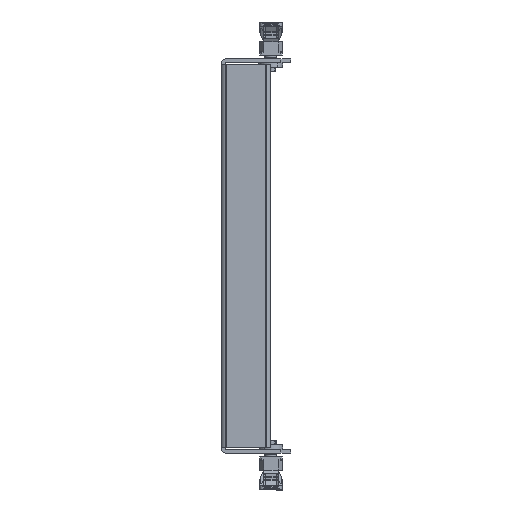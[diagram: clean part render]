
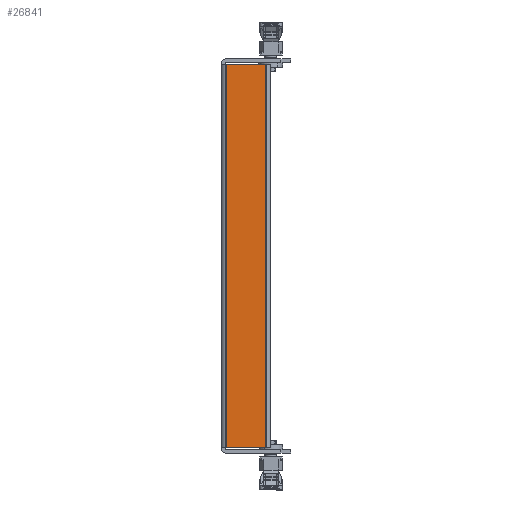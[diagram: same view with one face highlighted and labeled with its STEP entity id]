
A CAD part, left-side view. The second image highlights one B-rep face of the part: STEP entity #26841.
In plain terms, the highlighted planar face has unit normal (-1, 0, 0).
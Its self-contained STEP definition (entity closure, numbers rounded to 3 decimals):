
#24221=CARTESIAN_POINT(' ',(-355.5,-2.6,-96.4));
#24222=VERTEX_POINT(' ',#24221);
#24236=CARTESIAN_POINT(' ',(-355.5,-2.6,96.4));
#24241=DIRECTION(' ',(0.,0.,-1.));
#24246=VECTOR(' ',#24241,1.);
#24251=LINE('',#24236,#24246);
#24256=CARTESIAN_POINT(' ',(-355.5,-2.6,96.4));
#24257=VERTEX_POINT(' ',#24256);
#24261=EDGE_CURVE(' ',#24257,#24222,#24251,.T.);
#26076=CARTESIAN_POINT(' ',(-355.5,-22.4,-96.4));
#26077=VERTEX_POINT(' ',#26076);
#26091=CARTESIAN_POINT(' ',(-355.5,-2.6,-96.4));
#26096=DIRECTION(' ',(0.,-1.,0.));
#26101=VECTOR(' ',#26096,1.);
#26106=LINE('',#26091,#26101);
#26111=EDGE_CURVE(' ',#24222,#26077,#26106,.T.);
#26731=DIRECTION(' ',(-1.,-0.,-0.));
#26736=CARTESIAN_POINT(' ',(-355.5,-22.4,96.4));
#26741=DIRECTION(' ',(-0.,1.,0.));
#26746=AXIS2_PLACEMENT_3D(' ',#26736,#26731,#26741);
#26751=PLANE('NONE',#26746);
#26756=ORIENTED_EDGE(' ',*,*,#26111,.T.);
#26761=CARTESIAN_POINT(' ',(-355.5,-22.4,96.4));
#26766=DIRECTION(' ',(0.,0.,-1.));
#26771=VECTOR(' ',#26766,1.);
#26776=LINE('',#26761,#26771);
#26781=CARTESIAN_POINT(' ',(-355.5,-22.4,96.4));
#26782=VERTEX_POINT(' ',#26781);
#26786=EDGE_CURVE(' ',#26782,#26077,#26776,.T.);
#26791=ORIENTED_EDGE(' ',*,*,#26786,.F.);
#26796=CARTESIAN_POINT(' ',(-355.5,-2.6,96.4));
#26801=DIRECTION(' ',(0.,-1.,0.));
#26806=VECTOR(' ',#26801,1.);
#26811=LINE('',#26796,#26806);
#26816=EDGE_CURVE(' ',#24257,#26782,#26811,.T.);
#26821=ORIENTED_EDGE(' ',*,*,#26816,.F.);
#26826=ORIENTED_EDGE(' ',*,*,#24261,.T.);
#26831=EDGE_LOOP(' ',(#26756,#26791,#26821,#26826));
#26836=FACE_OUTER_BOUND(' ',#26831,.T.);
#26841=ADVANCED_FACE('NONE',(#26836),#26751,.T.);
